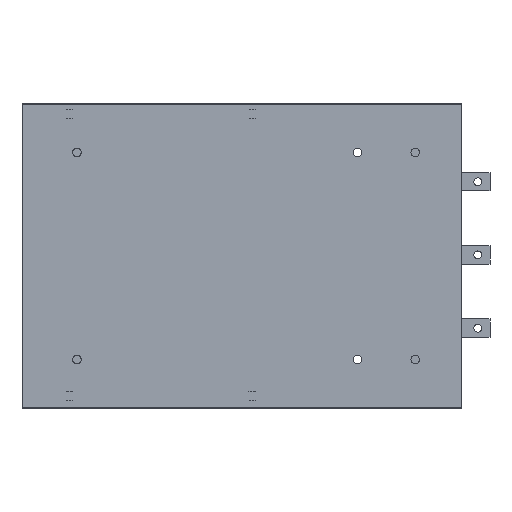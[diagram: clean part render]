
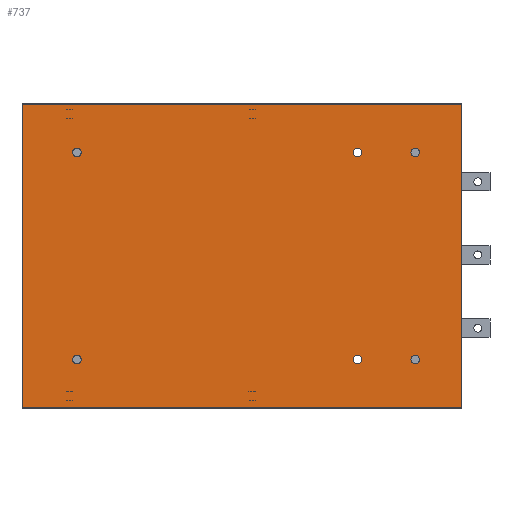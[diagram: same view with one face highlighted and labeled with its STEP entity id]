
A CAD part, front view. The second image highlights one B-rep face of the part: STEP entity #737.
In plain terms, the highlighted planar face has unit normal (0, -1, 0).
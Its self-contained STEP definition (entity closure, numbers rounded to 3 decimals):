
#737=ADVANCED_FACE('',(#4655,#4657,#4659,#4661,#4663,#4665,#4667),#4669,.T.);
#4655=FACE_BOUND('',#4656,.T.);
#4656=EDGE_LOOP('',(#9553,#9554,#9555,#9556));
#4657=FACE_BOUND('',#4658,.T.);
#4658=EDGE_LOOP('',(#9557));
#4659=FACE_BOUND('',#4660,.T.);
#4660=EDGE_LOOP('',(#9558));
#4661=FACE_BOUND('',#4662,.T.);
#4662=EDGE_LOOP('',(#9559));
#4663=FACE_BOUND('',#4664,.T.);
#4664=EDGE_LOOP('',(#9560));
#4665=FACE_BOUND('',#4666,.T.);
#4666=EDGE_LOOP('',(#9561));
#4667=FACE_BOUND('',#4668,.T.);
#4668=EDGE_LOOP('',(#9562));
#4669=PLANE('',#4670);
#4670=AXIS2_PLACEMENT_3D('',#4671,#4672,#4673);
#4671=CARTESIAN_POINT('',(603.8,-71.,-19.955));
#4672=DIRECTION('',(0.,-1.,0.));
#4673=DIRECTION('',(0.,0.,1.));
#9553=ORIENTED_EDGE('',*,*,#11818,.T.);
#9554=ORIENTED_EDGE('',*,*,#11805,.F.);
#9555=ORIENTED_EDGE('',*,*,#11847,.F.);
#9556=ORIENTED_EDGE('',*,*,#11812,.T.);
#9557=ORIENTED_EDGE('',*,*,#11827,.T.);
#9558=ORIENTED_EDGE('',*,*,#11828,.T.);
#9559=ORIENTED_EDGE('',*,*,#11829,.T.);
#9560=ORIENTED_EDGE('',*,*,#11830,.T.);
#9561=ORIENTED_EDGE('',*,*,#11831,.T.);
#9562=ORIENTED_EDGE('',*,*,#11832,.T.);
#11805=EDGE_CURVE('',#13112,#13114,#13115,.T.);
#11812=EDGE_CURVE('',#13125,#13123,#13126,.T.);
#11818=EDGE_CURVE('',#13123,#13114,#13135,.T.);
#11827=EDGE_CURVE('',#13150,#13150,#13151,.F.);
#11828=EDGE_CURVE('',#13152,#13152,#13153,.F.);
#11829=EDGE_CURVE('',#13154,#13154,#13155,.F.);
#11830=EDGE_CURVE('',#13156,#13156,#13157,.F.);
#11831=EDGE_CURVE('',#13158,#13158,#13159,.F.);
#11832=EDGE_CURVE('',#13160,#13160,#13161,.F.);
#11847=EDGE_CURVE('',#13125,#13112,#13182,.T.);
#13112=VERTEX_POINT('',#15430);
#13114=VERTEX_POINT('',#15435);
#13115=LINE('',#15436,#15437);
#13123=VERTEX_POINT('',#15458);
#13125=VERTEX_POINT('',#15463);
#13126=LINE('',#15464,#15465);
#13135=LINE('',#15486,#15487);
#13150=VERTEX_POINT('',#15519);
#13151=CIRCLE('',#15520,7.);
#13152=VERTEX_POINT('',#15524);
#13153=CIRCLE('',#15525,7.);
#13154=VERTEX_POINT('',#15529);
#13155=CIRCLE('',#15530,7.);
#13156=VERTEX_POINT('',#15534);
#13157=CIRCLE('',#15535,7.);
#13158=VERTEX_POINT('',#15539);
#13159=CIRCLE('',#15540,7.);
#13160=VERTEX_POINT('',#15544);
#13161=CIRCLE('',#15545,7.);
#13182=LINE('',#15600,#15601);
#15430=CARTESIAN_POINT('',(-6.2,-71.,-19.955));
#15435=CARTESIAN_POINT('',(-6.2,-71.,476.463));
#15436=CARTESIAN_POINT('',(-6.2,-71.,-19.955));
#15437=VECTOR('',#15438,1.);
#15438=DIRECTION('',(0.,0.,1.));
#15458=CARTESIAN_POINT('',(714.283,-71.,476.463));
#15463=CARTESIAN_POINT('',(714.283,-71.,-19.955));
#15464=CARTESIAN_POINT('',(714.283,-71.,-19.955));
#15465=VECTOR('',#15466,1.);
#15466=DIRECTION('',(0.,0.,1.));
#15486=CARTESIAN_POINT('',(714.283,-71.,476.463));
#15487=VECTOR('',#15488,1.);
#15488=DIRECTION('',(-1.,0.,0.));
#15519=CARTESIAN_POINT('',(90.8,-71.,398.254));
#15520=AXIS2_PLACEMENT_3D('',#15521,#15522,#15523);
#15521=CARTESIAN_POINT('',(83.8,-71.,398.254));
#15522=DIRECTION('',(0.,-1.,0.));
#15523=DIRECTION('',(1.,0.,0.));
#15524=CARTESIAN_POINT('',(550.8,-71.,398.254));
#15525=AXIS2_PLACEMENT_3D('',#15526,#15527,#15528);
#15526=CARTESIAN_POINT('',(543.8,-71.,398.254));
#15527=DIRECTION('',(0.,-1.,0.));
#15528=DIRECTION('',(1.,0.,0.));
#15529=CARTESIAN_POINT('',(645.8,-71.,398.254));
#15530=AXIS2_PLACEMENT_3D('',#15531,#15532,#15533);
#15531=CARTESIAN_POINT('',(638.8,-71.,398.254));
#15532=DIRECTION('',(0.,-1.,0.));
#15533=DIRECTION('',(1.,0.,0.));
#15534=CARTESIAN_POINT('',(90.8,-71.,58.254));
#15535=AXIS2_PLACEMENT_3D('',#15536,#15537,#15538);
#15536=CARTESIAN_POINT('',(83.8,-71.,58.254));
#15537=DIRECTION('',(0.,-1.,0.));
#15538=DIRECTION('',(1.,0.,0.));
#15539=CARTESIAN_POINT('',(550.8,-71.,58.254));
#15540=AXIS2_PLACEMENT_3D('',#15541,#15542,#15543);
#15541=CARTESIAN_POINT('',(543.8,-71.,58.254));
#15542=DIRECTION('',(0.,-1.,0.));
#15543=DIRECTION('',(1.,0.,0.));
#15544=CARTESIAN_POINT('',(645.8,-71.,58.254));
#15545=AXIS2_PLACEMENT_3D('',#15546,#15547,#15548);
#15546=CARTESIAN_POINT('',(638.8,-71.,58.254));
#15547=DIRECTION('',(0.,-1.,0.));
#15548=DIRECTION('',(1.,0.,0.));
#15600=CARTESIAN_POINT('',(714.283,-71.,-19.955));
#15601=VECTOR('',#15602,1.);
#15602=DIRECTION('',(-1.,0.,0.));
